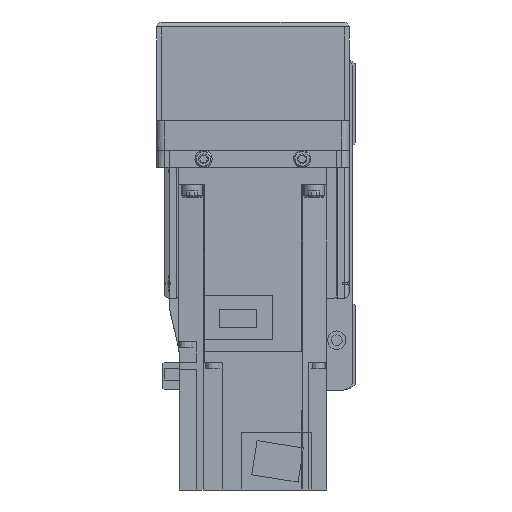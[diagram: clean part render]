
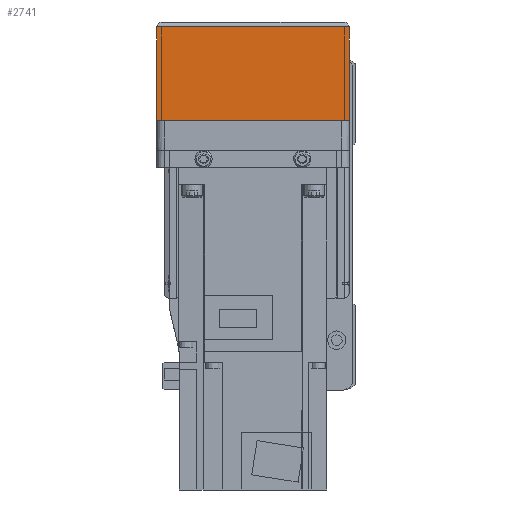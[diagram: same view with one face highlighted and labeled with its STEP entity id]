
A CAD part, left-side view. The second image highlights one B-rep face of the part: STEP entity #2741.
In plain terms, the highlighted planar face has unit normal (-1, 0, 0).
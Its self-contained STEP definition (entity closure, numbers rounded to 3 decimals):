
#2741 = ADVANCED_FACE( '', ( #6067 ), #6068, .F. );
#6067 = FACE_OUTER_BOUND( '', #9994, .T. );
#6068 = PLANE( '', #9995 );
#9994 = EDGE_LOOP( '', ( #17684, #17685, #17686, #17687 ) );
#9995 = AXIS2_PLACEMENT_3D( '', #17688, #17689, #17690 );
#17684 = ORIENTED_EDGE( '', *, *, #23381, .F. );
#17685 = ORIENTED_EDGE( '', *, *, #23798, .F. );
#17686 = ORIENTED_EDGE( '', *, *, #23026, .T. );
#17687 = ORIENTED_EDGE( '', *, *, #24625, .F. );
#17688 = CARTESIAN_POINT( '', ( -158., 36., 7. ) );
#17689 = DIRECTION( '', ( 1., 0., 0. ) );
#17690 = DIRECTION( '', ( 0., 0., -1. ) );
#23026 = EDGE_CURVE( '', #27914, #27919, #27921, .T. );
#23381 = EDGE_CURVE( '', #27574, #28479, #28480, .T. );
#23798 = EDGE_CURVE( '', #27914, #27574, #29107, .T. );
#24625 = EDGE_CURVE( '', #28479, #27919, #30260, .T. );
#27574 = VERTEX_POINT( '', #34903 );
#27914 = VERTEX_POINT( '', #35388 );
#27919 = VERTEX_POINT( '', #35394 );
#27921 = LINE( '', #35396, #35397 );
#28479 = VERTEX_POINT( '', #36273 );
#28480 = LINE( '', #36274, #36275 );
#29107 = LINE( '', #37236, #37237 );
#30260 = LINE( '', #39216, #39217 );
#34903 = CARTESIAN_POINT( '', ( -158., 39., -12.1 ) );
#35388 = CARTESIAN_POINT( '', ( -158., 39., -50. ) );
#35394 = CARTESIAN_POINT( '', ( -158., -39., -50. ) );
#35396 = CARTESIAN_POINT( '', ( -158., 40., -50. ) );
#35397 = VECTOR( '', #42500, 1000. );
#36273 = CARTESIAN_POINT( '', ( -158., -39., -12.1 ) );
#36274 = CARTESIAN_POINT( '', ( -158., 50., -12.1 ) );
#36275 = VECTOR( '', #42989, 1000. );
#37236 = CARTESIAN_POINT( '', ( -158., 39., -50. ) );
#37237 = VECTOR( '', #43507, 1000. );
#39216 = CARTESIAN_POINT( '', ( -158., -39., -12.1 ) );
#39217 = VECTOR( '', #44414, 1000. );
#42500 = DIRECTION( '', ( 0., -1., 0. ) );
#42989 = DIRECTION( '', ( 0., -1., 0. ) );
#43507 = DIRECTION( '', ( 0., 0., 1. ) );
#44414 = DIRECTION( '', ( 0., 0., -1. ) );
